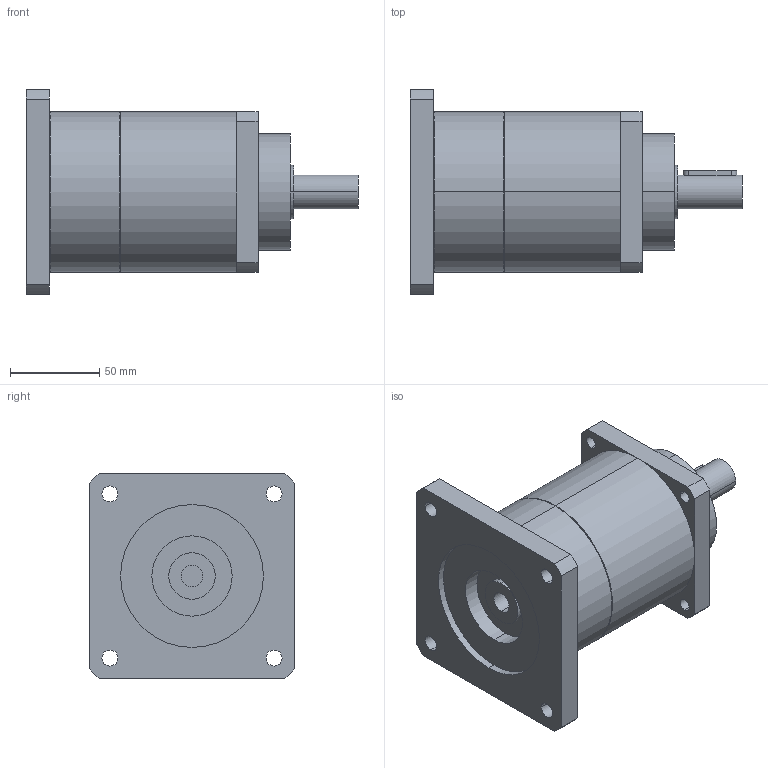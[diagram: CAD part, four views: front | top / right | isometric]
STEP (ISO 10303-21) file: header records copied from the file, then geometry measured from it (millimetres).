
FILE_DESCRIPTION(('CoCreate Modeling STEP Export'),'2;1');
FILE_NAME('GPT90_ig-9-12-16-20-25-28-35-40-50-70-100_19_B5T_12_P30.stp','2015-02-04T11:28:53',(''),(''),'CoCreate Modeling STEP processor for AP214 (Solid Model)','CoCreate Modeling 16.00C 25-Feb-2009 (C) Parametric Technology GmbH','');
FILE_SCHEMA(('AUTOMOTIVE_DESIGN { 1 0 10303 214 1 1 1 1 }'));
Length unit declared in the file: millimetre
Products named in the file (2): GPT90_ig-9-12-16-20-25-28-35-40-50-70-100_19_B5T_12_P30
Assembly tree (1 placements, depth 2):
  GPT90_ig-9-12-16-20-25-28-35-40-50-70-100_19_B5T_12_P30
    GPT90_ig-9-12-16-20-25-28-35-40-50-70-100_19_B5T_12_P30
Bounding box: 186 x 115 x 115 mm (x, y, z)
Volume: 965029.7 mm3; surface area: 81824.1 mm2
Topology: 1 solids, 1 shells, 77 faces, 207 edges, 142 vertices
Faces by surface type: cylinder 46, plane 27, cone 4
Entity records: 2601 total; most frequent: CARTESIAN_POINT 743, ORIENTED_EDGE 414, DIRECTION 324, EDGE_CURVE 207, VERTEX_POINT 142, AXIS2_PLACEMENT_3D 120, EDGE_LOOP 103, VECTOR 84
